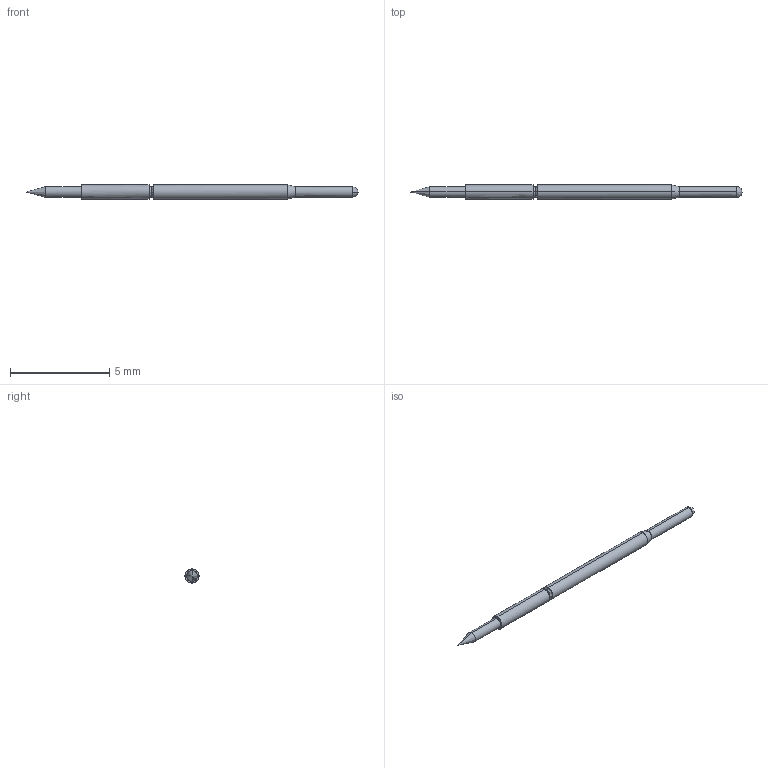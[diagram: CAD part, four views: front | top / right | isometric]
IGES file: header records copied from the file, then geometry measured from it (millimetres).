
Start section: SolidWorks IGES file using analytic representation for surfaces
Global section: file name: \\CODA-VM-SBS\RedirectedFolders\georged\My Documents\CODA CAD FILES\SPECIALIST TEST PRODUCTS\MICRO TEST PROBES\PM4 SERIES\PM4B.IGS; native system: SolidWorks 2024; preprocessor: SolidWorks 2024; author: GeorgeD; date: 250430.153425; units: inch
Bounding box: 16.76 x 0.71 x 0.71 mm (x, y, z)
Surface area: 33.5 mm2 (no closed solid volume)
Topology: 0 solids, 0 shells, 19 faces, 108 edges, 104 vertices
Faces by surface type: bspline 19
